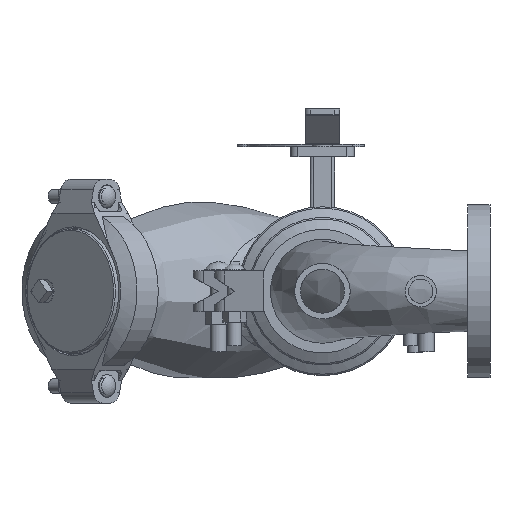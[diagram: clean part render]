
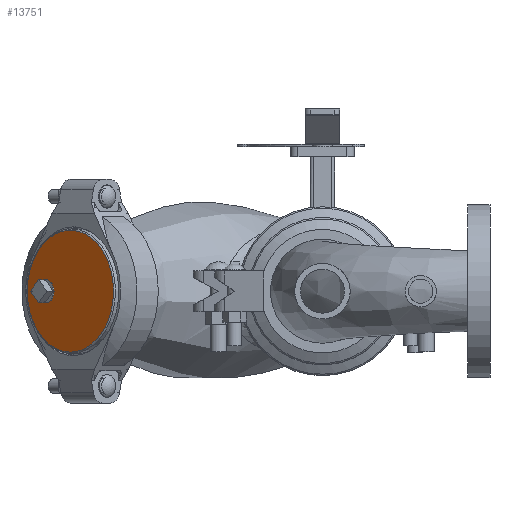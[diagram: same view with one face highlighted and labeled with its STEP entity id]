
A CAD part, front view. The second image highlights one B-rep face of the part: STEP entity #13751.
In plain terms, the highlighted planar face has unit normal (-0.707, -0.707, 0) as drawn and (1, 0, 0) by its records, which use the part's own axes.
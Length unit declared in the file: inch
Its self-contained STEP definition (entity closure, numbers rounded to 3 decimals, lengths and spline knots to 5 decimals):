
#2729=FACE_BOUND('',#3906,.T.);
#3107=FACE_OUTER_BOUND('',#3905,.T.);
#3905=EDGE_LOOP('',(#9853,#9854));
#3906=EDGE_LOOP('',(#9855));
#4721=CIRCLE('',#15095,0.5);
#4729=CIRCLE('',#15106,2.6375);
#4730=CIRCLE('',#15107,2.6375);
#5670=VERTEX_POINT('',#25286);
#5678=VERTEX_POINT('',#25307);
#5679=VERTEX_POINT('',#25308);
#7199=EDGE_CURVE('',#5670,#5670,#4721,.T.);
#7208=EDGE_CURVE('',#5678,#5679,#4729,.T.);
#7209=EDGE_CURVE('',#5679,#5678,#4730,.T.);
#9853=ORIENTED_EDGE('',*,*,#7208,.T.);
#9854=ORIENTED_EDGE('',*,*,#7209,.T.);
#9855=ORIENTED_EDGE('',*,*,#7199,.T.);
#12436=PLANE('',#15109);
#13751=ADVANCED_FACE('',(#3107,#2729),#12436,.T.);
#15095=AXIS2_PLACEMENT_3D('',#25288,#17541,#17542);
#15106=AXIS2_PLACEMENT_3D('',#25309,#17564,#17565);
#15107=AXIS2_PLACEMENT_3D('',#25310,#17566,#17567);
#15109=AXIS2_PLACEMENT_3D('',#25312,#17570,#17571);
#17541=DIRECTION('center_axis',(-1.,0.,0.));
#17542=DIRECTION('ref_axis',(0.,0.,1.));
#17564=DIRECTION('center_axis',(1.,0.,0.));
#17565=DIRECTION('ref_axis',(0.,0.,-1.));
#17566=DIRECTION('center_axis',(1.,0.,0.));
#17567=DIRECTION('ref_axis',(0.,0.,-1.));
#17570=DIRECTION('center_axis',(1.,0.,0.));
#17571=DIRECTION('ref_axis',(0.,0.,-1.));
#25286=CARTESIAN_POINT('',(1.13,1.5,-0.5));
#25288=CARTESIAN_POINT('Origin',(1.13,1.5,0.));
#25307=CARTESIAN_POINT('',(1.13,2.6375,0.));
#25308=CARTESIAN_POINT('',(1.13,0.,2.6375));
#25309=CARTESIAN_POINT('Origin',(1.13,0.,0.));
#25310=CARTESIAN_POINT('Origin',(1.13,0.,0.));
#25312=CARTESIAN_POINT('Origin',(1.13,0.,0.));
